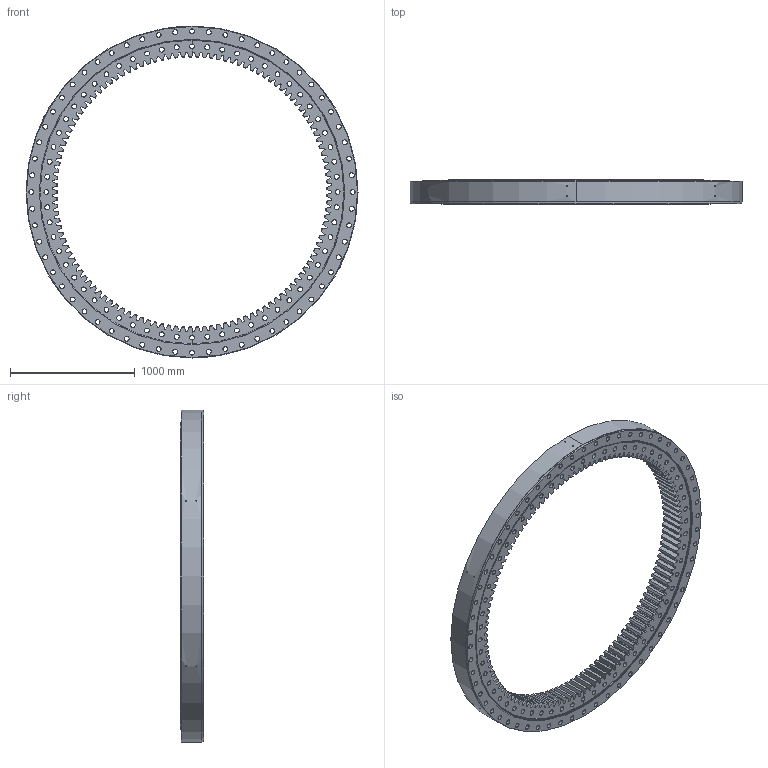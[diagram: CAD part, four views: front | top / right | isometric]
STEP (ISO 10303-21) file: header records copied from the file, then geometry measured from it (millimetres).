
FILE_DESCRIPTION (( 'STEP AP214' ), '1' );
FILE_NAME ('B2250-1-2657AA.STEP', '2022-11-24T07:11:45', ( '' ), ( '' ), 'SwSTEP 2.0', 'SolidWorks 2020', '' );
FILE_SCHEMA (( 'AUTOMOTIVE_DESIGN' ));
Length unit declared in the file: millimetre
Products named in the file (1): B2250-1-2657AA
Bounding box: 2657 x 189.59 x 2657 mm (x, y, z)
Volume: 290447823.2 mm3; surface area: 13431119 mm2
Topology: 4 solids, 4 shells, 1201 faces, 3503 edges, 2332 vertices
Faces by surface type: plane 516, cylinder 433, cone 252
Entity records: 48356 total; most frequent: CARTESIAN_POINT 17727, ORIENTED_EDGE 7006, DIRECTION 5503, EDGE_CURVE 3503, VERTEX_POINT 2332, AXIS2_PLACEMENT_3D 2166, EDGE_LOOP 1483, B_SPLINE_CURVE_WITH_KNOTS 1368
